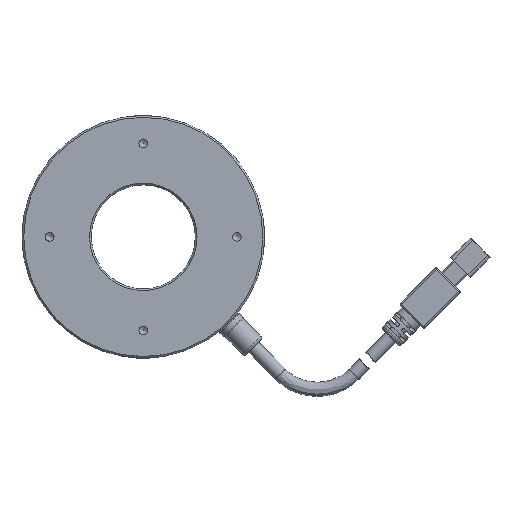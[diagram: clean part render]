
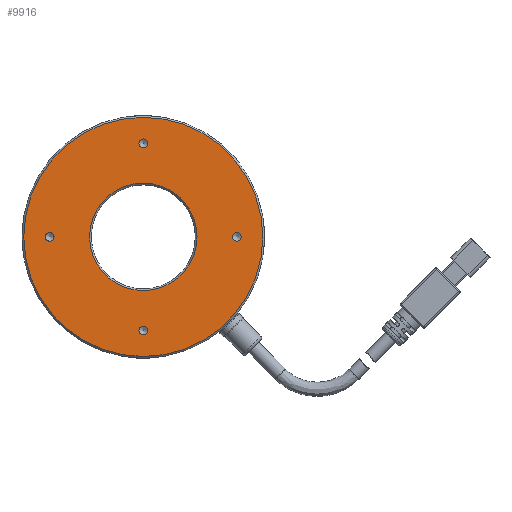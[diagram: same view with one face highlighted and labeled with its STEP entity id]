
A CAD part, front view. The second image highlights one B-rep face of the part: STEP entity #9916.
In plain terms, the highlighted planar face has unit normal (0, -1, 0).
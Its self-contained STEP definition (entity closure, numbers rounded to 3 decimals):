
#62 = EDGE_LOOP ( 'NONE', ( #896 ) ) ;
#75 = CARTESIAN_POINT ( 'NONE',  ( 33.265, 0.475, 0. ) ) ;
#532 = AXIS2_PLACEMENT_3D ( 'NONE', #4933, #11460, #3207 ) ;
#558 = VERTEX_POINT ( 'NONE', #6732 ) ;
#819 = FACE_BOUND ( 'NONE', #1399, .T. ) ;
#896 = ORIENTED_EDGE ( 'NONE', *, *, #4816, .F. ) ;
#923 = EDGE_LOOP ( 'NONE', ( #7265 ) ) ;
#1399 = EDGE_LOOP ( 'NONE', ( #4189 ) ) ;
#1943 = DIRECTION ( 'NONE',  ( 0., -1., 0. ) ) ;
#2100 = ORIENTED_EDGE ( 'NONE', *, *, #6903, .F. ) ;
#2270 = AXIS2_PLACEMENT_3D ( 'NONE', #4756, #8418, #5690 ) ;
#2284 = FACE_BOUND ( 'NONE', #10690, .T. ) ;
#2741 = VERTEX_POINT ( 'NONE', #10472 ) ;
#3016 = CARTESIAN_POINT ( 'NONE',  ( 33.265, 0.475, -27. ) ) ;
#3042 = DIRECTION ( 'NONE',  ( 0., 0., 1. ) ) ;
#3207 = DIRECTION ( 'NONE',  ( 0., 0., -1. ) ) ;
#3853 = ORIENTED_EDGE ( 'NONE', *, *, #11504, .F. ) ;
#3866 = CARTESIAN_POINT ( 'NONE',  ( -1.735, 0.475, 0. ) ) ;
#3880 = EDGE_LOOP ( 'NONE', ( #2100 ) ) ;
#4054 = AXIS2_PLACEMENT_3D ( 'NONE', #75, #4629, #6573 ) ;
#4137 = DIRECTION ( 'NONE',  ( 0., -1., 0. ) ) ;
#4189 = ORIENTED_EDGE ( 'NONE', *, *, #7663, .T. ) ;
#4629 = DIRECTION ( 'NONE',  ( 0., 1., 0. ) ) ;
#4700 = AXIS2_PLACEMENT_3D ( 'NONE', #3866, #6466, #5538 ) ;
#4756 = CARTESIAN_POINT ( 'NONE',  ( 6.265, 0.475, 0. ) ) ;
#4816 = EDGE_CURVE ( 'NONE', #10552, #10552, #8632, .T. ) ;
#4933 = CARTESIAN_POINT ( 'NONE',  ( 60.265, 0.475, 0. ) ) ;
#5494 = FACE_BOUND ( 'NONE', #62, .T. ) ;
#5538 = DIRECTION ( 'NONE',  ( 0., 0., -1. ) ) ;
#5556 = CIRCLE ( 'NONE', #4054, 15.5 ) ;
#5690 = DIRECTION ( 'NONE',  ( 0., 0., -1. ) ) ;
#5737 = CARTESIAN_POINT ( 'NONE',  ( 33.265, 0.475, 34.5 ) ) ;
#5783 = FACE_BOUND ( 'NONE', #9736, .T. ) ;
#6074 = VERTEX_POINT ( 'NONE', #5737 ) ;
#6195 = EDGE_CURVE ( 'NONE', #11293, #11293, #11482, .T. ) ;
#6466 = DIRECTION ( 'NONE',  ( 0., -1., 0. ) ) ;
#6573 = DIRECTION ( 'NONE',  ( 1., 0., 0. ) ) ;
#6650 = AXIS2_PLACEMENT_3D ( 'NONE', #3016, #1943, #8392 ) ;
#6732 = CARTESIAN_POINT ( 'NONE',  ( 48.765, 0.475, 0. ) ) ;
#6810 = DIRECTION ( 'NONE',  ( 0., 0., -1. ) ) ;
#6903 = EDGE_CURVE ( 'NONE', #10988, #10988, #9862, .T. ) ;
#6942 = AXIS2_PLACEMENT_3D ( 'NONE', #11250, #10438, #3042 ) ;
#7066 = FACE_OUTER_BOUND ( 'NONE', #923, .T. ) ;
#7265 = ORIENTED_EDGE ( 'NONE', *, *, #10026, .F. ) ;
#7540 = AXIS2_PLACEMENT_3D ( 'NONE', #10662, #4137, #6810 ) ;
#7606 = CARTESIAN_POINT ( 'NONE',  ( 60.265, 0.475, -1.25 ) ) ;
#7663 = EDGE_CURVE ( 'NONE', #558, #558, #5556, .T. ) ;
#8392 = DIRECTION ( 'NONE',  ( 0., 0., -1. ) ) ;
#8418 = DIRECTION ( 'NONE',  ( 0., -1., 0. ) ) ;
#8420 = CIRCLE ( 'NONE', #6650, 1.25 ) ;
#8460 = CARTESIAN_POINT ( 'NONE',  ( 6.265, 0.475, -1.25 ) ) ;
#8632 = CIRCLE ( 'NONE', #7540, 1.25 ) ;
#9380 = CARTESIAN_POINT ( 'NONE',  ( 33.265, 0.475, 25.75 ) ) ;
#9736 = EDGE_LOOP ( 'NONE', ( #10476 ) ) ;
#9862 = CIRCLE ( 'NONE', #2270, 1.25 ) ;
#9916 = ADVANCED_FACE ( 'NONE', ( #819, #7066, #5494, #11682, #2284, #5783 ), #11212, .T. ) ;
#10026 = EDGE_CURVE ( 'NONE', #6074, #6074, #10081, .T. ) ;
#10081 = CIRCLE ( 'NONE', #6942, 34.5 ) ;
#10438 = DIRECTION ( 'NONE',  ( 0., 1., 0. ) ) ;
#10472 = CARTESIAN_POINT ( 'NONE',  ( 33.265, 0.475, -28.25 ) ) ;
#10476 = ORIENTED_EDGE ( 'NONE', *, *, #6195, .F. ) ;
#10552 = VERTEX_POINT ( 'NONE', #9380 ) ;
#10662 = CARTESIAN_POINT ( 'NONE',  ( 33.265, 0.475, 27. ) ) ;
#10690 = EDGE_LOOP ( 'NONE', ( #3853 ) ) ;
#10988 = VERTEX_POINT ( 'NONE', #8460 ) ;
#11212 = PLANE ( 'NONE',  #4700 ) ;
#11250 = CARTESIAN_POINT ( 'NONE',  ( 33.265, 0.475, 0. ) ) ;
#11293 = VERTEX_POINT ( 'NONE', #7606 ) ;
#11460 = DIRECTION ( 'NONE',  ( 0., -1., 0. ) ) ;
#11482 = CIRCLE ( 'NONE', #532, 1.25 ) ;
#11504 = EDGE_CURVE ( 'NONE', #2741, #2741, #8420, .T. ) ;
#11682 = FACE_BOUND ( 'NONE', #3880, .T. ) ;
